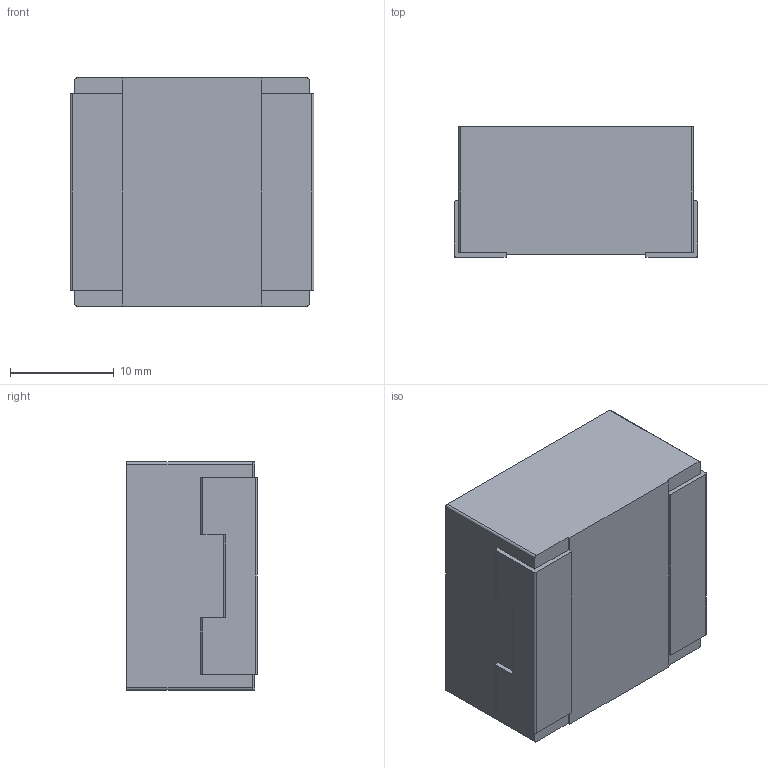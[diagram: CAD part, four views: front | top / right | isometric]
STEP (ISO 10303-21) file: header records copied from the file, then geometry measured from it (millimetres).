
FILE_DESCRIPTION (( 'STEP AP203' ), '1' );
FILE_NAME ('PA4349.STEP', '2018-07-17T06:48:58', ( '' ), ( '' ), 'SwSTEP 2.0', 'SolidWorks 2015', '' );
FILE_SCHEMA (( 'CONFIG_CONTROL_DESIGN' ));
Length unit declared in the file: millimetre
Products named in the file (1): PA4349
Bounding box: 23.5 x 12.6 x 22 mm (x, y, z)
Volume: 6254.4 mm3; surface area: 2157.7 mm2
Topology: 1 solids, 1 shells, 158 faces, 440 edges, 292 vertices
Faces by surface type: plane 100, bspline 46, cylinder 12
Entity records: 5361 total; most frequent: CARTESIAN_POINT 1521, ORIENTED_EDGE 880, DIRECTION 598, EDGE_CURVE 440, LINE 324, VECTOR 324, VERTEX_POINT 292, EDGE_LOOP 166
